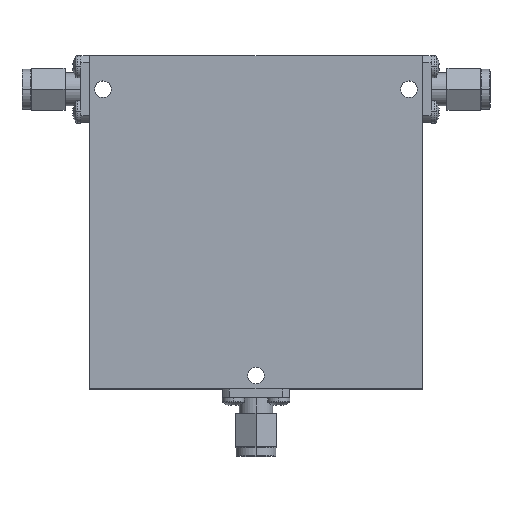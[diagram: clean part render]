
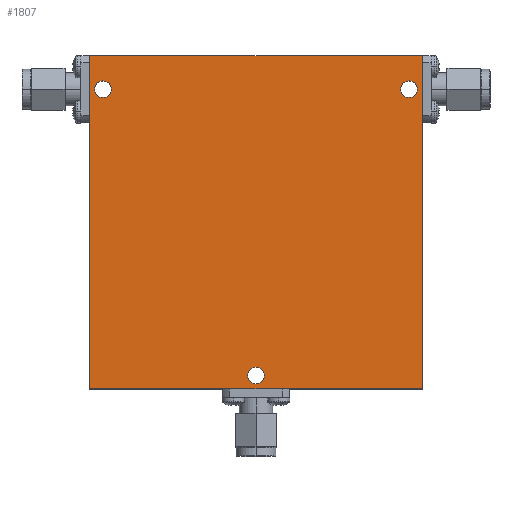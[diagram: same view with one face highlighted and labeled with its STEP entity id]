
A CAD part, top view. The second image highlights one B-rep face of the part: STEP entity #1807.
In plain terms, the highlighted planar face has unit normal (0, 0, 1).
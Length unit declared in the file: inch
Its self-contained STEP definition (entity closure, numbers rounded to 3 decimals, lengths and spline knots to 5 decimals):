
#103 = ORIENTED_EDGE ( 'NONE', *, *, #1604, .T. ) ;
#167 = CARTESIAN_POINT ( 'NONE',  ( -0.0625, -1.15, 0.275 ) ) ;
#174 = LINE ( 'NONE', #486, #2634 ) ;
#378 = VERTEX_POINT ( 'NONE', #1629 ) ;
#387 = LINE ( 'NONE', #2797, #1437 ) ;
#403 = CARTESIAN_POINT ( 'NONE',  ( -1.15, 1., 0.275 ) ) ;
#452 = AXIS2_PLACEMENT_3D ( 'NONE', #2989, #624, #1815 ) ;
#463 = LINE ( 'NONE', #2437, #504 ) ;
#486 = CARTESIAN_POINT ( 'NONE',  ( -1.25, -1.25, 0.275 ) ) ;
#504 = VECTOR ( 'NONE', #1265, 39.37008 ) ;
#505 = VERTEX_POINT ( 'NONE', #167 ) ;
#517 = CARTESIAN_POINT ( 'NONE',  ( -1.15, 1., 0.275 ) ) ;
#546 = EDGE_LOOP ( 'NONE', ( #969, #2929 ) ) ;
#587 = VERTEX_POINT ( 'NONE', #2140 ) ;
#592 = CARTESIAN_POINT ( 'NONE',  ( 0., 0., 0.275 ) ) ;
#623 = DIRECTION ( 'NONE',  ( 1., 0., 0. ) ) ;
#624 = DIRECTION ( 'NONE',  ( 0., 0., 1. ) ) ;
#657 = EDGE_CURVE ( 'NONE', #697, #2314, #2841, .T. ) ;
#687 = AXIS2_PLACEMENT_3D ( 'NONE', #403, #1146, #3038 ) ;
#692 = FACE_BOUND ( 'NONE', #546, .T. ) ;
#697 = VERTEX_POINT ( 'NONE', #1452 ) ;
#723 = VERTEX_POINT ( 'NONE', #2173 ) ;
#770 = CIRCLE ( 'NONE', #452, 0.0625 ) ;
#783 = CARTESIAN_POINT ( 'NONE',  ( -1.0875, 1., 0.275 ) ) ;
#785 = CIRCLE ( 'NONE', #2346, 0.0625 ) ;
#819 = DIRECTION ( 'NONE',  ( 1., 0., 0. ) ) ;
#824 = CARTESIAN_POINT ( 'NONE',  ( 0.0625, -1.15, 0.275 ) ) ;
#946 = ORIENTED_EDGE ( 'NONE', *, *, #2954, .F. ) ;
#969 = ORIENTED_EDGE ( 'NONE', *, *, #1364, .F. ) ;
#996 = DIRECTION ( 'NONE',  ( 0., 0., 1. ) ) ;
#997 = EDGE_CURVE ( 'NONE', #378, #1162, #387, .T. ) ;
#1048 = ORIENTED_EDGE ( 'NONE', *, *, #1697, .T. ) ;
#1054 = DIRECTION ( 'NONE',  ( 0., 0., 1. ) ) ;
#1094 = ORIENTED_EDGE ( 'NONE', *, *, #997, .T. ) ;
#1109 = AXIS2_PLACEMENT_3D ( 'NONE', #517, #2924, #1698 ) ;
#1146 = DIRECTION ( 'NONE',  ( 0., 0., 1. ) ) ;
#1162 = VERTEX_POINT ( 'NONE', #3089 ) ;
#1198 = CIRCLE ( 'NONE', #2582, 0.0625 ) ;
#1201 = VERTEX_POINT ( 'NONE', #824 ) ;
#1265 = DIRECTION ( 'NONE',  ( 0., -1., 0. ) ) ;
#1277 = DIRECTION ( 'NONE',  ( 0., 0., 1. ) ) ;
#1278 = ORIENTED_EDGE ( 'NONE', *, *, #2502, .F. ) ;
#1364 = EDGE_CURVE ( 'NONE', #1201, #505, #770, .T. ) ;
#1374 = DIRECTION ( 'NONE',  ( -1., 0., 0. ) ) ;
#1410 = LINE ( 'NONE', #1969, #1578 ) ;
#1437 = VECTOR ( 'NONE', #1374, 39.37008 ) ;
#1452 = CARTESIAN_POINT ( 'NONE',  ( -1.2125, 1., 0.275 ) ) ;
#1480 = EDGE_LOOP ( 'NONE', ( #2501, #1094, #1048, #103 ) ) ;
#1578 = VECTOR ( 'NONE', #2176, 39.37008 ) ;
#1604 = EDGE_CURVE ( 'NONE', #723, #587, #174, .T. ) ;
#1617 = EDGE_CURVE ( 'NONE', #587, #378, #1410, .T. ) ;
#1629 = CARTESIAN_POINT ( 'NONE',  ( 1.25, 1.25, 0.275 ) ) ;
#1667 = CARTESIAN_POINT ( 'NONE',  ( 1.2125, 1., 0.275 ) ) ;
#1671 = DIRECTION ( 'NONE',  ( 1., 0., 0. ) ) ;
#1697 = EDGE_CURVE ( 'NONE', #1162, #723, #463, .T. ) ;
#1698 = DIRECTION ( 'NONE',  ( 1., 0., 0. ) ) ;
#1739 = FACE_BOUND ( 'NONE', #2357, .T. ) ;
#1749 = ORIENTED_EDGE ( 'NONE', *, *, #657, .F. ) ;
#1774 = FACE_BOUND ( 'NONE', #2963, .T. ) ;
#1807 = ADVANCED_FACE ( 'NONE', ( #1774, #692, #1739, #2985 ), #2737, .T. ) ;
#1815 = DIRECTION ( 'NONE',  ( 1., 0., 0. ) ) ;
#1966 = ORIENTED_EDGE ( 'NONE', *, *, #2964, .F. ) ;
#1969 = CARTESIAN_POINT ( 'NONE',  ( 1.25, 1.25, 0.275 ) ) ;
#2039 = CIRCLE ( 'NONE', #2412, 0.0625 ) ;
#2070 = DIRECTION ( 'NONE',  ( 0., 0., 1. ) ) ;
#2140 = CARTESIAN_POINT ( 'NONE',  ( 1.25, -1.25, 0.275 ) ) ;
#2150 = CIRCLE ( 'NONE', #687, 0.0625 ) ;
#2173 = CARTESIAN_POINT ( 'NONE',  ( -1.25, -1.25, 0.275 ) ) ;
#2176 = DIRECTION ( 'NONE',  ( 0., 1., 0. ) ) ;
#2187 = VERTEX_POINT ( 'NONE', #1667 ) ;
#2190 = AXIS2_PLACEMENT_3D ( 'NONE', #592, #1277, #819 ) ;
#2214 = CARTESIAN_POINT ( 'NONE',  ( 0., -1.15, 0.275 ) ) ;
#2314 = VERTEX_POINT ( 'NONE', #783 ) ;
#2346 = AXIS2_PLACEMENT_3D ( 'NONE', #2488, #1054, #2715 ) ;
#2357 = EDGE_LOOP ( 'NONE', ( #946, #1749 ) ) ;
#2401 = EDGE_CURVE ( 'NONE', #505, #1201, #1198, .T. ) ;
#2412 = AXIS2_PLACEMENT_3D ( 'NONE', #2802, #2070, #623 ) ;
#2437 = CARTESIAN_POINT ( 'NONE',  ( -1.25, 1.25, 0.275 ) ) ;
#2488 = CARTESIAN_POINT ( 'NONE',  ( 1.15, 1., 0.275 ) ) ;
#2501 = ORIENTED_EDGE ( 'NONE', *, *, #1617, .T. ) ;
#2502 = EDGE_CURVE ( 'NONE', #2637, #2187, #785, .T. ) ;
#2582 = AXIS2_PLACEMENT_3D ( 'NONE', #2214, #996, #2660 ) ;
#2634 = VECTOR ( 'NONE', #1671, 39.37008 ) ;
#2637 = VERTEX_POINT ( 'NONE', #2885 ) ;
#2660 = DIRECTION ( 'NONE',  ( 1., 0., 0. ) ) ;
#2715 = DIRECTION ( 'NONE',  ( 1., 0., 0. ) ) ;
#2737 = PLANE ( 'NONE',  #2190 ) ;
#2797 = CARTESIAN_POINT ( 'NONE',  ( -1.25, 1.25, 0.275 ) ) ;
#2802 = CARTESIAN_POINT ( 'NONE',  ( 1.15, 1., 0.275 ) ) ;
#2841 = CIRCLE ( 'NONE', #1109, 0.0625 ) ;
#2885 = CARTESIAN_POINT ( 'NONE',  ( 1.0875, 1., 0.275 ) ) ;
#2924 = DIRECTION ( 'NONE',  ( 0., 0., 1. ) ) ;
#2929 = ORIENTED_EDGE ( 'NONE', *, *, #2401, .F. ) ;
#2954 = EDGE_CURVE ( 'NONE', #2314, #697, #2150, .T. ) ;
#2963 = EDGE_LOOP ( 'NONE', ( #1966, #1278 ) ) ;
#2964 = EDGE_CURVE ( 'NONE', #2187, #2637, #2039, .T. ) ;
#2985 = FACE_OUTER_BOUND ( 'NONE', #1480, .T. ) ;
#2989 = CARTESIAN_POINT ( 'NONE',  ( 0., -1.15, 0.275 ) ) ;
#3038 = DIRECTION ( 'NONE',  ( 1., 0., 0. ) ) ;
#3089 = CARTESIAN_POINT ( 'NONE',  ( -1.25, 1.25, 0.275 ) ) ;
